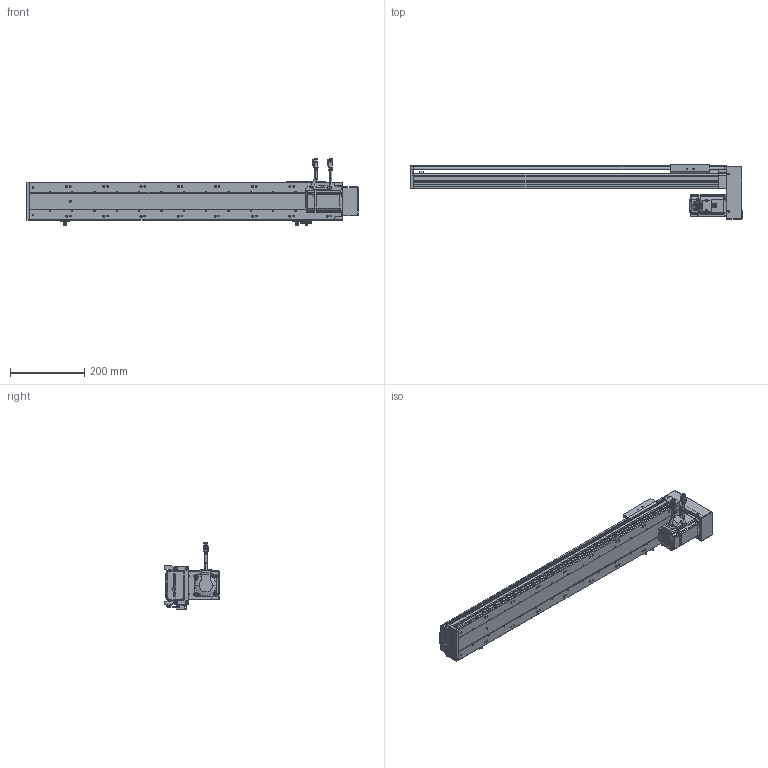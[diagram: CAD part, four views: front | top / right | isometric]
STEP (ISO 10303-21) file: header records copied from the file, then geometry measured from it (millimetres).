
FILE_DESCRIPTION (( 'STEP AP203' ), '1' );
FILE_NAME ('RY100S-L1620-300-BK(15双轨).SLDASM_650.step', '2021-02-20T08:23:26', ( '盈信电脑' ), ( '东莞市道滘镇水果街19号' ), 'SwSTEP 2.0', 'SolidWorks 2012', '' );
FILE_SCHEMA (( 'CONFIG_CONTROL_DESIGN' ));
Length unit declared in the file: millimetre
Products named in the file (26): RY100S-L1620-300-BK(15邧寢).SLDASM_650; RY100S-狟殏萇儂郪; 肮祭湍5M遵15笚酗260; 侂狟200W萇儂; RY100S下折电机安装板（15双轨）; 6; 5; 4; 7; 1; 3; 2; 3M30喘15遵; RY100S狟殏萇儂欶(15邧寢); RY80肮祭湍覃踡啣; RY80肮祭湍芢雄輸; RY100S转折电机端支撑座(15双轨); RY100S-絳寢EGH15-350-LK(腴郪15邧寢)_650; 滅袉蝶18-24; RY100綴裔啣; RY100S铝滑块（15双轨单滑块）底组装导轨; 覜茼ん672; 滅袉蝶18-10; RY100俋离覜茼え; RY100S-350-LK型材底座(低组15双轨)_650; RY100S-300-LK转折型材上盖(15双轨)_650
Assembly tree (28 placements, depth 4):
  RY100S-L1620-300-BK(15邧寢).SLDASM_650
    RY100S-350-LK型材底座(低组15双轨)_650
    RY100S-300-LK转折型材上盖(15双轨)_650
    RY100S铝滑块（15双轨单滑块）底组装导轨
    覜茼ん672  x3
    滅袉蝶18-10
    RY100俋离覜茼え
    RY100S转折电机端支撑座(15双轨)
    滅袉蝶18-24
    RY100綴裔啣
    RY100S-絳寢EGH15-350-LK(腴郪15邧寢)_650
    RY100S-狟殏萇儂郪
      RY80肮祭湍芢雄輸  x2
      RY100S狟殏萇儂欶(15邧寢)
      3M30喘15遵
      RY80肮祭湍覃踡啣
      侂狟200W萇儂
        1
        2
        3
        4
        5
        6
        7
      肮祭湍5M遵15笚酗260
      RY100S下折电机安装板（15双轨）
Bounding box: 892 x 147 x 179.5 mm (x, y, z)
Volume: 2274803.8 mm3; surface area: 888255.3 mm2
Topology: 26 solids, 26 shells, 3341 faces, 8993 edges, 5802 vertices
Faces by surface type: plane 1739, cylinder 1319, cone 169, bspline 114
Entity records: 108846 total; most frequent: CARTESIAN_POINT 26980, ORIENTED_EDGE 16690, DIRECTION 16210, EDGE_CURVE 8345, AXIS2_PLACEMENT_3D 5563, VERTEX_POINT 5438, VECTOR 5084, LINE 5084
